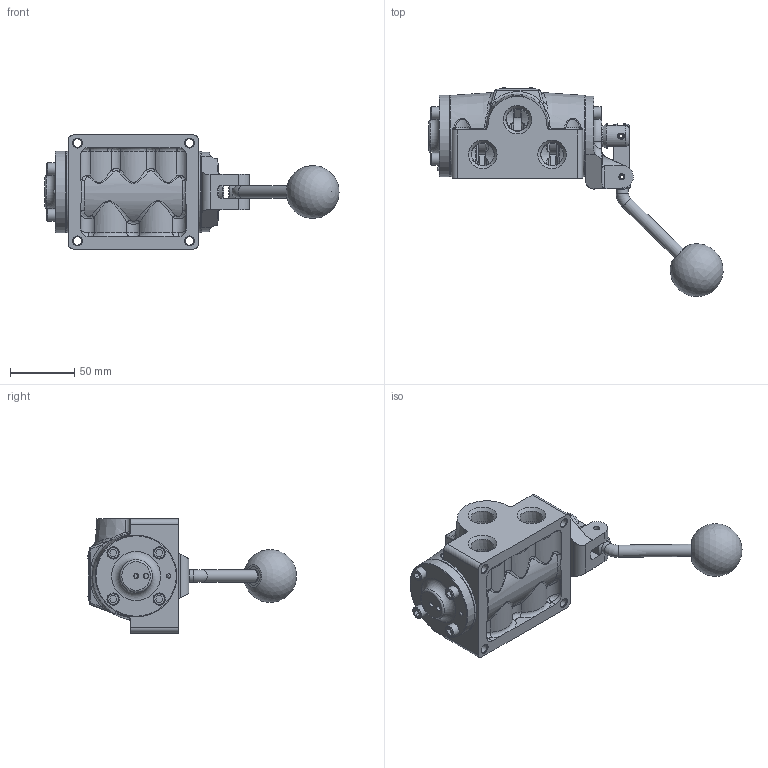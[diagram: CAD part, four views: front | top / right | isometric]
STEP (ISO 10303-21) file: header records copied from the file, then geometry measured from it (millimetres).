
FILE_DESCRIPTION(/* description */ (''),/* implementation_level */ '2;1');
FILE_NAME(/* name */ 'HY4CT.stp',/* time_stamp */ '2025-01-25T19:42:28-05:00',/* author */ ('rmckenna'),/* organization */ (''),/* preprocessor_version */ 'ST-DEVELOPER v20',/* originating_system */ 'Autodesk Inventor 2024',/* authorisation */ '');
FILE_SCHEMA (('AUTOMOTIVE_DESIGN { 1 0 10303 214 3 1 1 }'));
Products named in the file (1): Part55
Bounding box: 229.35 x 162.86 x 88.9 mm (x, y, z)
Volume: 528722.9 mm3; surface area: 124226.7 mm2
Topology: 1 solids, 25 shells, 1639 faces, 4007 edges, 2495 vertices
Faces by surface type: plane 540, bspline 338, cone 303, cylinder 295, torus 143, sphere 20
Full cylindrical faces by diameter (mm): 2.07 x2, 2.261 x2, 2.778 x2, 3.048 x2, 3.683 x2, 3.969 x1, 4.75 x2, 4.763 x2, 4.978 x8, 6.35 x8, 6.629 x4, 7.137 x8, 7.144 x8, 8.382 x1, 9.525 x12, 9.906 x2, 11.328 x1, 11.481 x1, 12.7 x2, 12.827 x3, 13.868 x1, 17.475 x5, 18.999 x4, 21.031 x1, 25.4 x1, 28.194 x1, 28.219 x2, 28.296 x12, 31.75 x2, 34.925 x2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
Entity records: 63848 total; most frequent: CARTESIAN_POINT 26005, ORIENTED_EDGE 7936, DIRECTION 6712, EDGE_CURVE 3968, AXIS2_PLACEMENT_3D 2631, VERTEX_POINT 2495, EDGE_LOOP 1817, STYLED_ITEM 1640
